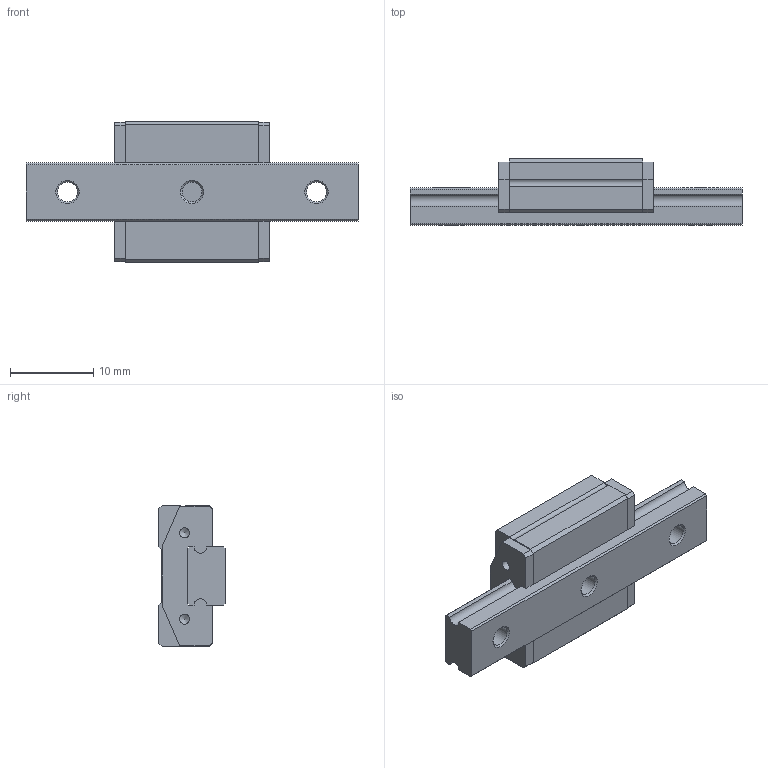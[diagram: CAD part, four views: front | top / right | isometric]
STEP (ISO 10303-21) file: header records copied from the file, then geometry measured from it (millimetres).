
FILE_DESCRIPTION( ( 'STEP AP214' ), '1' );
FILE_NAME( 'p:/temp/worker_356/temp/exporttempdir_2980_543_5VZeL/format_0/MNNS 7-40-5-5-G1-V0(1 1).stp', '2020-03-24T14:30:04', ( 'License CC BY-ND 4.0' ), ( 'CADENAS' ), ' ', 'PARTsolutions', ' ' );
FILE_SCHEMA( ( 'AUTOMOTIVE_DESIGN { 1 0 10303 214 1 1 1 1 }' ) );
Length unit declared in the file: millimetre
Products named in the file (4): MNNS 7-40-5-5-G1-V0(1 1); _Schiene 1 MNNS7-40-5-5-G1-V0(1); _Wagen-MNNS7; _Cover-MN7
Assembly tree (4 placements, depth 2):
  MNNS 7-40-5-5-G1-V0(1 1)
    _Schiene 1 MNNS7-40-5-5-G1-V0(1)
    _Wagen-MNNS7
    _Cover-MN7  x2
Bounding box: 40 x 8 x 17 mm (x, y, z)
Volume: 2596.2 mm3; surface area: 2770.6 mm2
Topology: 4 solids, 4 shells, 125 faces, 316 edges, 206 vertices
Faces by surface type: plane 78, cylinder 29, cone 18
Full cylindrical faces by diameter (mm): 1.2 x4, 1.567 x2, 2.4 x3, 2.6 x8, 4.2 x3
Entity records: 3548 total; most frequent: DIRECTION 464, CARTESIAN_POINT 462, ORIENTED_EDGE 408, EDGE_CURVE 204, AXIS2_PLACEMENT_3D 158, VERTEX_POINT 156, LINE 148, VECTOR 148
